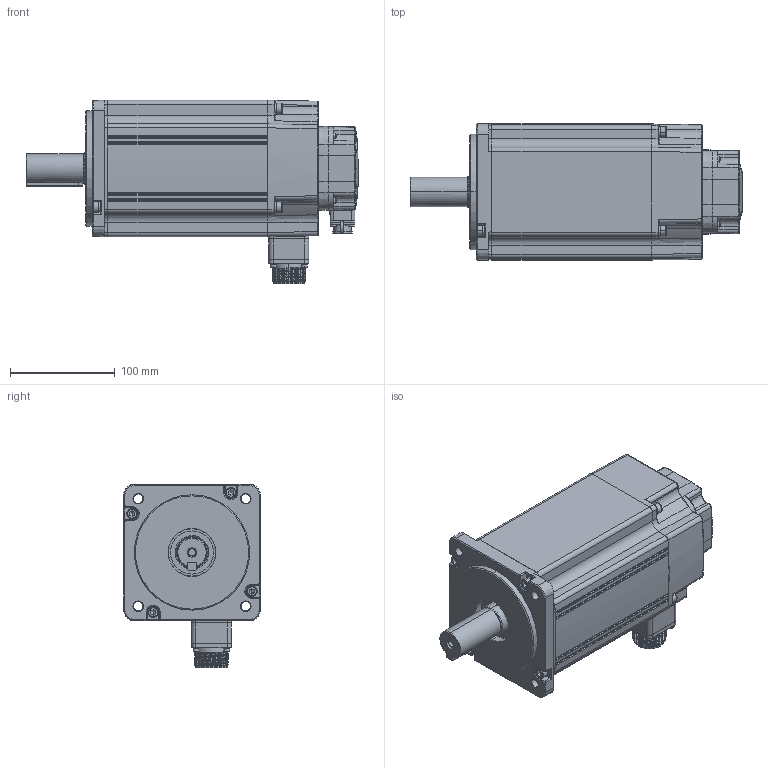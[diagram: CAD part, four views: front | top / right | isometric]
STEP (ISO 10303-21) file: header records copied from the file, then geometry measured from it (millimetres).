
FILE_DESCRIPTION (( 'STEP AP214' ), '1' );
FILE_NAME ('UMM-0040EAB-B5.STEP', '2024-08-20T09:21:31', ( '' ), ( '' ), 'SwSTEP 2.0', 'SolidWorks 2022', '' );
FILE_SCHEMA (( 'AUTOMOTIVE_DESIGN' ));
Length unit declared in the file: millimetre
Products named in the file (1): UMM-0040EAB-B5
Bounding box: 316.5 x 130 x 174.95 mm (x, y, z)
Surface area: 190780.1 mm2 (no closed solid volume)
Topology: 0 solids, 115 shells, 995 faces, 3123 edges, 2150 vertices
Faces by surface type: plane 298, cylinder 292, bspline 213, cone 149, torus 43
Entity records: 49802 total; most frequent: CARTESIAN_POINT 24803, ORIENTED_EDGE 5080, DIRECTION 4733, EDGE_CURVE 3032, VERTEX_POINT 2150, AXIS2_PLACEMENT_3D 1766, LINE 1201, VECTOR 1201
